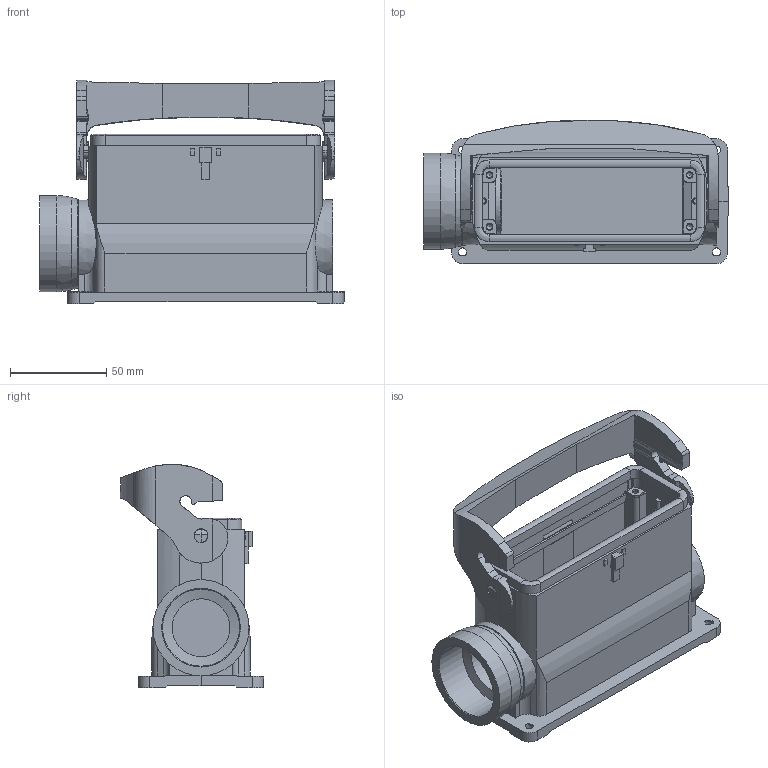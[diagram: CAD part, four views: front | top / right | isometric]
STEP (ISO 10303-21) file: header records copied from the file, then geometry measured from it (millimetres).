
FILE_DESCRIPTION(/* description */ (''),/* implementation_level */ '2;1');
FILE_NAME(/* name */ '100751966ugm000_b.stp',/* time_stamp */ '2022-03-12T06:13:43+01:00',/* author */ (''),/* organization */ (''),/* preprocessor_version */ 'ST-DEVELOPER v16.7',/* originating_system */ 'SIEMENS PLM Software NX 1911',/* authorisation */ '');
FILE_SCHEMA (('AUTOMOTIVE_DESIGN { 1 0 10303 214 3 1 1 1 }'));
Length unit declared in the file: millimetre
Products named in the file (1): 100751966ugm000_b
Bounding box: 158.1 x 74.38 x 116.01 mm (x, y, z)
Volume: 254844.5 mm3; surface area: 101821.2 mm2
Topology: 2 solids, 3 shells, 619 faces, 1883 edges, 1378 vertices
Faces by surface type: plane 378, cylinder 135, cone 86, bspline 13, torus 6, extrusion 1
Full cylindrical faces by diameter (mm): 3 x4, 3.4 x4, 3.5 x4, 7.2 x2, 30 x1, 40 x1, 40.9 x1, 46.4 x1, 49.95 x1
Entity records: 22822 total; most frequent: CARTESIAN_POINT 5232, ORIENTED_EDGE 3454, DIRECTION 3288, EDGE_CURVE 1727, VERTEX_POINT 1189, AXIS2_PLACEMENT_3D 1145, VECTOR 998, LINE 997
